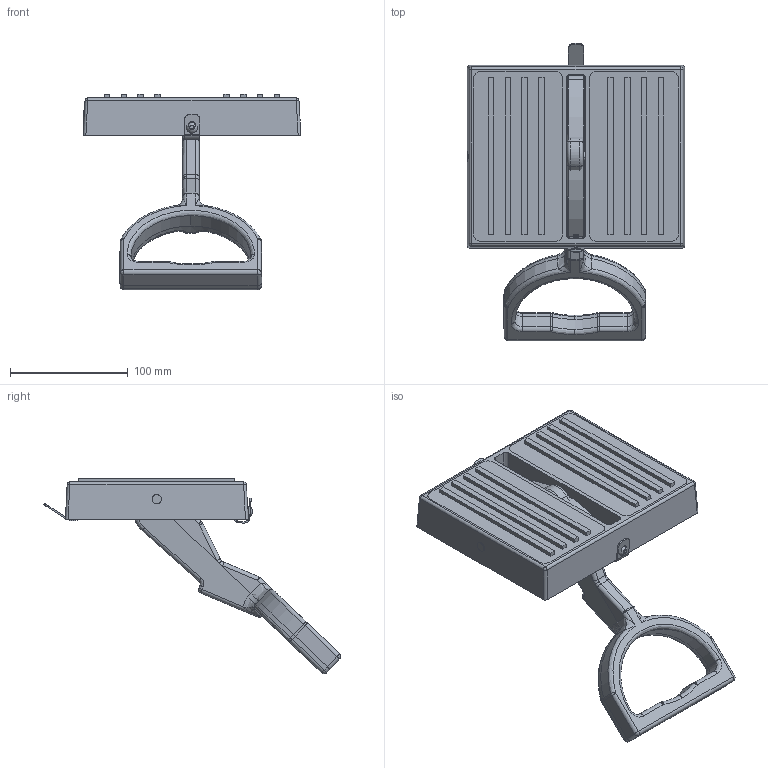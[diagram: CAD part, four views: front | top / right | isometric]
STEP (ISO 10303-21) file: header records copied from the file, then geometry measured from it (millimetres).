
FILE_DESCRIPTION (( 'STEP AP203' ), '1' );
FILE_NAME ('B400.STEP', '2018-10-26T17:55:27', ( '' ), ( '' ), 'SwSTEP 2.0', 'SolidWorks 2015', '' );
FILE_SCHEMA (( 'CONFIG_CONTROL_DESIGN' ));
Length unit declared in the file: inch
Products named in the file (1): B400
Bounding box: 185.17 x 252.93 x 166.35 mm (x, y, z)
Volume: 566722.9 mm3; surface area: 272173.5 mm2
Topology: 15 solids, 15 shells, 1615 faces, 4148 edges, 2692 vertices
Faces by surface type: plane 941, bspline 483, cylinder 105, cone 80, sphere 6
Entity records: 77054 total; most frequent: CARTESIAN_POINT 40953, ORIENTED_EDGE 8288, DIRECTION 5725, EDGE_CURVE 4144, LINE 2873, VECTOR 2873, VERTEX_POINT 2692, EDGE_LOOP 1796
